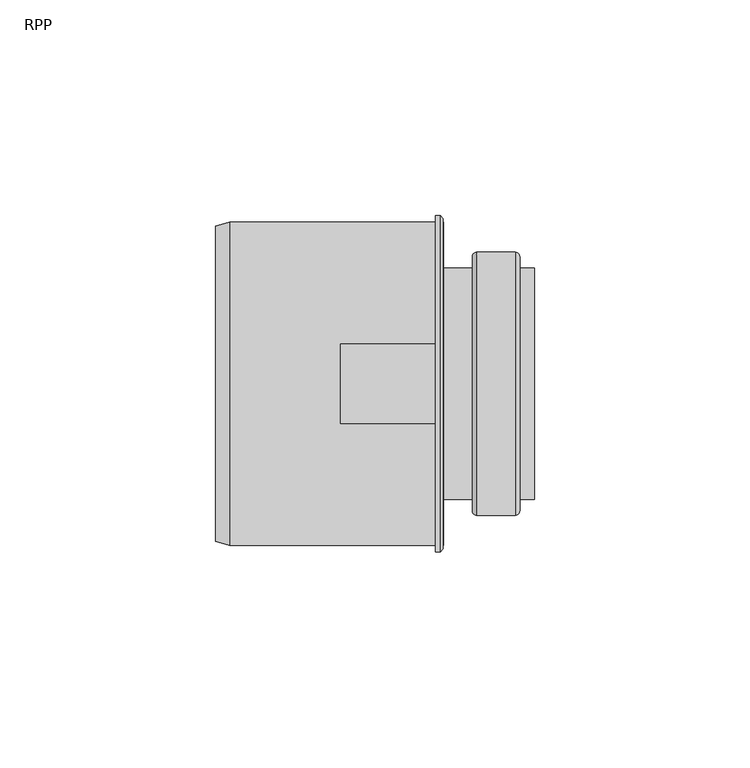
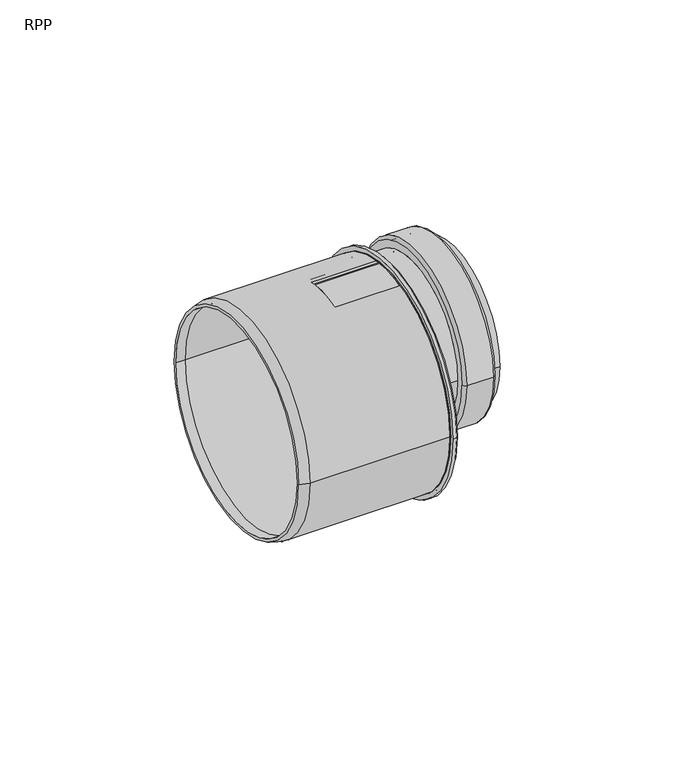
"""IFC4 building model written with IfcOpenShell, lengths in millimetres: pipe fitting geometry, RAUPIANO PLUS Short Reducer : RPP."""

from ifc_helpers import new_model, si_unit, point, frame, frame_2d, origin, origin_2d, place, context, project, spatial, polyline, circle_curve, ellipse_curve, trimmed, segment, composite_curve, outline, extrude, source, transform, mapped, element, save
from ifc_brep_helpers import plane_surface, cylinder_surface, revolved_surface, advanced_brep


def rpp_bd0caaf4(model_context):
    return source(origin(), model_context, "Body", "SolidModel", [
        extrude(outline(composite_curve([segment(trimmed(circle_curve(origin_2d(), 37.5), [point((-37.5, 0.0))], [point((37.5, 0.0))], False, "CARTESIAN"), True, "CONTINUOUS"), segment(trimmed(circle_curve(origin_2d(), 37.5), [point((37.5, 0.0))], [point((-37.5, 0.0))], False, "CARTESIAN"), True, "CONTINUOUS")], self_intersect=False), holes=[composite_curve([segment(trimmed(circle_curve(frame_2d((0.0, 10.6)), 25.0), [point((-25.0, 10.6))], [point((25.0, 10.6))], True, "CARTESIAN"), True, "CONTINUOUS"), segment(trimmed(circle_curve(frame_2d((0.0, 10.6)), 25.0), [point((25.0, 10.6))], [point((-25.0, 10.6))], True, "CARTESIAN"), True, "CONTINUOUS")], self_intersect=False)]), frame((0.0, 0.0, 0.0), z_axis=(1.0, 0.0, 0.0), x_axis=(0.0, 1.0, 0.0)), (0.0, 0.0, 1.0), 1.9),
        advanced_brep(
        [(0.0, 37.5, 0.0), (0.0, -37.5, 0.0), (1.8, -37.5, 0.0), (1.8, 37.5, 0.0), (1.8, 38.3680651, 0.0), (1.8, -38.3680651, 0.0), (0.0, -39.0429328, 0.0), (0.0, 39.0429328, 0.0), (1.2520203, -39.0429328, 0.0), (1.2520203, 39.0429328, 0.0)],
        [
            (0, 1, circle_curve(frame((0.0, 0.0, 0.0), z_axis=(-1.0, 0.0, 0.0), x_axis=(0.0, -1.0, 0.0)), 37.5)),
            (1, 2),
            (2, 3, circle_curve(frame((1.8, 0.0, 0.0), z_axis=(1.0, 0.0, 0.0), x_axis=(0.0, -1.0, 0.0)), 37.5)),
            (3, 0),
            (1, 0, circle_curve(frame((0.0, 0.0, 0.0), z_axis=(-1.0, 0.0, 0.0), x_axis=(0.0, 1.0, 0.0)), 37.5)),
            (3, 2, circle_curve(frame((1.8, 0.0, 0.0), z_axis=(1.0, 0.0, 0.0), x_axis=(0.0, 1.0, 0.0)), 37.5)),
            (4, 5, circle_curve(frame((1.8, 0.0, 0.0), z_axis=(1.0, 0.0, 0.0), x_axis=(0.0, 1.0, 0.0)), 38.3680651)),
            (5, 4, circle_curve(frame((1.8, 0.0, 0.0), z_axis=(1.0, 0.0, 0.0), x_axis=(0.0, -1.0, 0.0)), 38.3680651)),
            (6, 7, circle_curve(frame((0.0, 0.0, 0.0), z_axis=(-1.0, 0.0, 0.0), x_axis=(0.0, 1.0, 0.0)), 39.0429328)),
            (7, 6, circle_curve(frame((0.0, 0.0, 0.0), z_axis=(-1.0, 0.0, 0.0), x_axis=(0.0, -1.0, 0.0)), 39.0429328)),
            (5, 8),
            (8, 9, circle_curve(frame((1.2520203, 0.0, 0.0), z_axis=(1.0, 0.0, 0.0), x_axis=(0.0, -1.0, 0.0)), 39.0429328)),
            (9, 4),
            (8, 6),
            (7, 9),
            (9, 8, circle_curve(frame((1.2520203, 0.0, 0.0), z_axis=(1.0, 0.0, 0.0), x_axis=(0.0, 1.0, 0.0)), 39.0429328)),
        ],
        [
            revolved_surface(polyline([(1.8, -37.5, 0.0), (0.0, -37.5, 0.0)]), (0.0, 0.0, 0.0), (1.0, 0.0, 0.0)),
            revolved_surface(polyline([(1.8, 37.5, 0.0), (0.0, 37.5, 0.0)]), (0.0, 0.0, 0.0), (1.0, 0.0, 0.0)),
            plane_surface(frame((1.8, 0.0, 0.0), z_axis=(1.0, 0.0, 0.0), x_axis=(0.0, 1.0, 0.0))),
            plane_surface(frame((0.0, 0.0, 0.0), z_axis=(-1.0, 0.0, 0.0), x_axis=(0.0, 1.0, 0.0))),
            revolved_surface(polyline([(1.2520203, -39.0429328, 0.0), (1.8, -38.3680651, 0.0)]), (0.0, 0.0, 0.0), (1.0, 0.0, 0.0)),
            cylinder_surface(frame((0.0, 0.0, 0.0), z_axis=(1.0, 0.0, 0.0), x_axis=(0.0, -1.0, 0.0)), 39.0429328),
            revolved_surface(polyline([(1.2520203, 39.0429328, 0.0), (1.8, 38.3680651, 0.0)]), (0.0, 0.0, 0.0), (1.0, 0.0, 0.0)),
            cylinder_surface(frame((0.0, 0.0, 0.0), z_axis=(1.0, 0.0, 0.0), x_axis=(0.0, 1.0, 0.0)), 39.0429328),
        ],
        [
            (0, [[1, 2, 3, 4]]),
            (1, [[5, -4, 6, -2]]),
            (2, [[7, 8], [-6, -3]]),
            (3, [[9, 10], [-5, -1]]),
            (4, [[-8, 11, 12, 13]]),
            (5, [[-12, 14, -10, 15]]),
            (6, [[-7, -13, 16, -11]]),
            (7, [[-16, -15, -9, -14]]),
        ],
    ),
        advanced_brep(
        [(8.6, 26.8, 10.6), (8.6, -26.8, 10.6), (-22.0, -26.8, 10.6), (-22.0, 26.8, 10.6), (23.0, 26.8, 10.6), (23.0, -26.8, 10.6), (19.6, -26.8, 10.6), (19.6, 26.8, 10.6), (17.6, 25.0, 10.6), (17.6, -25.0, 10.6), (23.0, -25.0, 10.6), (23.0, 25.0, 10.6), (-20.2, 25.0, 10.6), (-20.2, -25.0, 10.6), (10.6, -25.0, 10.6), (10.6, 25.0, 10.6), (17.6, -28.5, 10.6), (17.6, 28.5, 10.6), (9.6, 30.5, 10.6), (9.6, -30.5, 10.6), (8.6, -29.5, 10.6), (8.6, 29.5, 10.6), (18.6, 30.5, 10.6), (18.6, -30.5, 10.6), (19.6, 29.5, 10.6), (19.6, -29.5, 10.6), (10.6, 28.5, 10.6), (10.6, -28.5, 10.6), (-22.0, 22.8, 10.6), (-22.0, -22.8, 10.6), (-20.2, -22.8, 10.6), (-20.2, 22.8, 10.6)],
        [
            (0, 1, circle_curve(frame((8.6, 0.0, 10.6), z_axis=(-1.0, 0.0, 0.0), x_axis=(0.0, -1.0, 0.0)), 26.8)),
            (1, 2),
            (2, 3, circle_curve(frame((-22.0, 0.0, 10.6), z_axis=(1.0, 0.0, 0.0), x_axis=(0.0, -1.0, 0.0)), 26.8)),
            (3, 0),
            (4, 5, circle_curve(frame((23.0, 0.0, 10.6), z_axis=(-1.0, 0.0, 0.0), x_axis=(0.0, -1.0, 0.0)), 26.8)),
            (5, 6),
            (6, 7, circle_curve(frame((19.6, 0.0, 10.6), z_axis=(1.0, 0.0, 0.0), x_axis=(0.0, -1.0, 0.0)), 26.8)),
            (7, 4),
            (8, 9, circle_curve(frame((17.6, 0.0, 10.6), z_axis=(-1.0, 0.0, 0.0), x_axis=(0.0, -1.0, 0.0)), 25.0)),
            (9, 10),
            (10, 11, circle_curve(frame((23.0, 0.0, 10.6), z_axis=(1.0, 0.0, 0.0), x_axis=(0.0, -1.0, 0.0)), 25.0)),
            (11, 8),
            (12, 13, circle_curve(frame((-20.2, 0.0, 10.6), z_axis=(-1.0, 0.0, 0.0), x_axis=(0.0, -1.0, 0.0)), 25.0)),
            (13, 14),
            (14, 15, circle_curve(frame((10.6, 0.0, 10.6), z_axis=(1.0, 0.0, 0.0), x_axis=(0.0, -1.0, 0.0)), 25.0)),
            (15, 12),
            (1, 0, circle_curve(frame((8.6, 0.0, 10.6), z_axis=(-1.0, 0.0, 0.0), x_axis=(0.0, 1.0, 0.0)), 26.8)),
            (3, 2, circle_curve(frame((-22.0, 0.0, 10.6), z_axis=(1.0, 0.0, 0.0), x_axis=(0.0, 1.0, 0.0)), 26.8)),
            (5, 4, circle_curve(frame((23.0, 0.0, 10.6), z_axis=(-1.0, 0.0, 0.0), x_axis=(0.0, 1.0, 0.0)), 26.8)),
            (7, 6, circle_curve(frame((19.6, 0.0, 10.6), z_axis=(1.0, 0.0, 0.0), x_axis=(0.0, 1.0, 0.0)), 26.8)),
            (10, 11, circle_curve(frame((23.0, 0.0, 10.6), z_axis=(-1.0, 0.0, 0.0), x_axis=(0.0, 1.0, 0.0)), 25.0)),
            (9, 8, circle_curve(frame((17.6, 0.0, 10.6), z_axis=(-1.0, 0.0, 0.0), x_axis=(0.0, 1.0, 0.0)), 25.0)),
            (13, 12, circle_curve(frame((-20.2, 0.0, 10.6), z_axis=(-1.0, 0.0, 0.0), x_axis=(0.0, 1.0, 0.0)), 25.0)),
            (15, 14, circle_curve(frame((10.6, 0.0, 10.6), z_axis=(1.0, 0.0, 0.0), x_axis=(0.0, 1.0, 0.0)), 25.0)),
            (16, 17, circle_curve(frame((17.6, 0.0, 10.6), z_axis=(-1.0, 0.0, 0.0), x_axis=(0.0, 1.0, 0.0)), 28.5)),
            (17, 16, circle_curve(frame((17.6, 0.0, 10.6), z_axis=(-1.0, 0.0, 0.0), x_axis=(0.0, -1.0, 0.0)), 28.5)),
            (18, 19, circle_curve(frame((9.6, 0.0, 10.6), z_axis=(-1.0, 0.0, 0.0), x_axis=(0.0, -1.0, 0.0)), 30.5)),
            (19, 20, circle_curve(frame((9.6, -29.5, 10.6), z_axis=(0.0, 0.0, -1.0), x_axis=(1.0, 0.0, 0.0)), 1.0)),
            (20, 21, circle_curve(frame((8.6, 0.0, 10.6), z_axis=(1.0, 0.0, 0.0), x_axis=(0.0, -1.0, 0.0)), 29.5)),
            (21, 18, circle_curve(frame((9.6, 29.5, 10.6), z_axis=(0.0, 0.0, -1.0), x_axis=(1.0, 0.0, 0.0)), 1.0)),
            (22, 23, circle_curve(frame((18.6, 0.0, 10.6), z_axis=(-1.0, 0.0, 0.0), x_axis=(0.0, -1.0, 0.0)), 30.5)),
            (23, 19),
            (18, 22),
            (24, 25, circle_curve(frame((19.6, 0.0, 10.6), z_axis=(-1.0, 0.0, 0.0), x_axis=(0.0, -1.0, 0.0)), 29.5)),
            (25, 23, circle_curve(frame((18.6, -29.5, 10.6), z_axis=(0.0, 0.0, -1.0), x_axis=(1.0, 0.0, 0.0)), 1.0)),
            (22, 24, circle_curve(frame((18.6, 29.5, 10.6), z_axis=(0.0, 0.0, -1.0), x_axis=(1.0, 0.0, 0.0)), 1.0)),
            (20, 21, circle_curve(frame((8.6, 0.0, 10.6), z_axis=(-1.0, 0.0, 0.0), x_axis=(0.0, 1.0, 0.0)), 29.5)),
            (19, 18, circle_curve(frame((9.6, 0.0, 10.6), z_axis=(-1.0, 0.0, 0.0), x_axis=(0.0, 1.0, 0.0)), 30.5)),
            (23, 22, circle_curve(frame((18.6, 0.0, 10.6), z_axis=(-1.0, 0.0, 0.0), x_axis=(0.0, 1.0, 0.0)), 30.5)),
            (25, 24, circle_curve(frame((19.6, 0.0, 10.6), z_axis=(-1.0, 0.0, 0.0), x_axis=(0.0, 1.0, 0.0)), 29.5)),
            (26, 27, circle_curve(frame((10.6, 0.0, 10.6), z_axis=(-1.0, 0.0, 0.0), x_axis=(0.0, -1.0, 0.0)), 28.5)),
            (27, 16),
            (17, 26),
            (28, 29, circle_curve(frame((-22.0, 0.0, 10.6), z_axis=(-1.0, 0.0, 0.0), x_axis=(0.0, -1.0, 0.0)), 22.8)),
            (29, 30),
            (30, 31, circle_curve(frame((-20.2, 0.0, 10.6), z_axis=(1.0, 0.0, 0.0), x_axis=(0.0, -1.0, 0.0)), 22.8)),
            (31, 28),
            (27, 26, circle_curve(frame((10.6, 0.0, 10.6), z_axis=(-1.0, 0.0, 0.0), x_axis=(0.0, 1.0, 0.0)), 28.5)),
            (30, 31, circle_curve(frame((-20.2, 0.0, 10.6), z_axis=(-1.0, 0.0, 0.0), x_axis=(0.0, 1.0, 0.0)), 22.8)),
            (29, 28, circle_curve(frame((-22.0, 0.0, 10.6), z_axis=(-1.0, 0.0, 0.0), x_axis=(0.0, 1.0, 0.0)), 22.8)),
        ],
        [
            cylinder_surface(frame((0.0, 0.0, 10.6), z_axis=(1.0, 0.0, 0.0), x_axis=(0.0, -1.0, 0.0)), 26.8),
            revolved_surface(polyline([(23.0, -25.0, 10.6), (17.6, -25.0, 10.6)]), (0.0, 0.0, 10.6), (1.0, 0.0, 0.0)),
            revolved_surface(polyline([(10.6, -25.0, 10.6), (-20.2, -25.0, 10.6)]), (0.0, 0.0, 10.6), (1.0, 0.0, 0.0)),
            cylinder_surface(frame((0.0, 0.0, 10.6), z_axis=(1.0, 0.0, 0.0), x_axis=(0.0, 1.0, 0.0)), 26.8),
            plane_surface(frame((23.0, 0.0, 10.6), z_axis=(1.0, 0.0, 0.0), x_axis=(0.0, 1.0, 0.0))),
            revolved_surface(polyline([(23.0, 25.0, 10.6), (17.6, 25.0, 10.6)]), (0.0, 0.0, 10.6), (1.0, 0.0, 0.0)),
            revolved_surface(polyline([(10.6, 25.0, 10.6), (-20.2, 25.0, 10.6)]), (0.0, 0.0, 10.6), (1.0, 0.0, 0.0)),
            plane_surface(frame((17.6, 0.0, 10.6), z_axis=(-1.0, 0.0, 0.0), x_axis=(0.0, 1.0, 0.0))),
            revolved_surface(trimmed(ellipse_curve(frame((9.6, -29.5, 10.6), z_axis=(0.0, 0.0, 1.0), x_axis=(1.0, 0.0, 0.0)), 1.0, 1.0), [point((8.6, -29.5, 10.6))], [point((9.6, -30.5, 10.6))], True, "CARTESIAN"), (0.0, 0.0, 10.6), (1.0, 0.0, 0.0)),
            cylinder_surface(frame((0.0, 0.0, 10.6), z_axis=(1.0, 0.0, 0.0), x_axis=(0.0, -1.0, 0.0)), 30.5),
            revolved_surface(trimmed(ellipse_curve(frame((18.6, -29.5, 10.6), z_axis=(0.0, 0.0, 1.0), x_axis=(1.0, 0.0, 0.0)), 1.0, 1.0), [point((18.6, -30.5, 10.6))], [point((19.6, -29.5, 10.6))], True, "CARTESIAN"), (0.0, 0.0, 10.6), (1.0, 0.0, 0.0)),
            plane_surface(frame((8.6, 0.0, 10.6), z_axis=(-1.0, 0.0, 0.0), x_axis=(0.0, 1.0, 0.0))),
            revolved_surface(trimmed(ellipse_curve(frame((9.6, 29.5, 10.6), z_axis=(0.0, 0.0, -1.0), x_axis=(1.0, 0.0, 0.0)), 1.0, 1.0), [point((8.6, 29.5, 10.6))], [point((9.6, 30.5, 10.6))], True, "CARTESIAN"), (0.0, 0.0, 10.6), (1.0, 0.0, 0.0)),
            cylinder_surface(frame((0.0, 0.0, 10.6), z_axis=(1.0, 0.0, 0.0), x_axis=(0.0, 1.0, 0.0)), 30.5),
            revolved_surface(trimmed(ellipse_curve(frame((18.6, 29.5, 10.6), z_axis=(0.0, 0.0, -1.0), x_axis=(1.0, 0.0, 0.0)), 1.0, 1.0), [point((18.6, 30.5, 10.6))], [point((19.6, 29.5, 10.6))], True, "CARTESIAN"), (0.0, 0.0, 10.6), (1.0, 0.0, 0.0)),
            plane_surface(frame((19.6, 0.0, 10.6), z_axis=(1.0, 0.0, 0.0), x_axis=(0.0, 1.0, 0.0))),
            revolved_surface(polyline([(17.6, -28.5, 10.6), (10.6, -28.5, 10.6)]), (0.0, 0.0, 10.6), (1.0, 0.0, 0.0)),
            revolved_surface(polyline([(-20.2, -22.8, 10.6), (-22.0, -22.8, 10.6)]), (0.0, 0.0, 10.6), (1.0, 0.0, 0.0)),
            revolved_surface(polyline([(17.6, 28.5, 10.6), (10.6, 28.5, 10.6)]), (0.0, 0.0, 10.6), (1.0, 0.0, 0.0)),
            plane_surface(frame((10.6, 0.0, 10.6), z_axis=(1.0, 0.0, 0.0), x_axis=(0.0, 1.0, 0.0))),
            plane_surface(frame((-20.2, 0.0, 10.6), z_axis=(1.0, 0.0, 0.0), x_axis=(0.0, 1.0, 0.0))),
            revolved_surface(polyline([(-20.2, 22.8, 10.6), (-22.0, 22.8, 10.6)]), (0.0, 0.0, 10.6), (1.0, 0.0, 0.0)),
            plane_surface(frame((-22.0, 0.0, 10.6), z_axis=(-1.0, 0.0, 0.0), x_axis=(0.0, 1.0, 0.0))),
        ],
        [
            (0, [[1, 2, 3, 4]]),
            (0, [[5, 6, 7, 8]]),
            (1, [[9, 10, 11, 12]]),
            (2, [[13, 14, 15, 16]]),
            (3, [[17, -4, 18, -2]]),
            (3, [[19, -8, 20, -6]]),
            (4, [[-19, -5], [21, -11]]),
            (5, [[22, -12, -21, -10]]),
            (6, [[23, -16, 24, -14]]),
            (7, [[25, 26], [-22, -9]]),
            (8, [[27, 28, 29, 30]]),
            (9, [[31, 32, -27, 33]]),
            (10, [[34, 35, -31, 36]]),
            (11, [[37, -29], [-17, -1]]),
            (12, [[38, -30, -37, -28]]),
            (13, [[39, -33, -38, -32]]),
            (14, [[40, -36, -39, -35]]),
            (15, [[-40, -34], [-20, -7]]),
            (16, [[41, 42, -26, 43]]),
            (17, [[44, 45, 46, 47]]),
            (18, [[48, -43, -25, -42]]),
            (19, [[-48, -41], [-24, -15]]),
            (20, [[-23, -13], [49, -46]]),
            (21, [[50, -47, -49, -45]]),
            (22, [[-18, -3], [-50, -44]]),
        ],
    ),
        advanced_brep(
        [(-47.7, 35.6, 0.0), (-47.7, -35.6, 0.0), (0.0, -35.6, 0.0), (0.0, 35.6, 0.0), (-51.0, 35.6, 0.0), (-51.0, -35.6, 0.0), (-47.7, 37.5, 0.0), (-47.7, -37.5, 0.0), (-51.0, -36.6157677, 0.0), (-51.0, 36.6157677, 0.0), (0.0, 37.5, 0.0), (0.0, -37.5, 0.0)],
        [
            (0, 1, circle_curve(frame((-47.7, 0.0, 0.0), z_axis=(-1.0, 0.0, 0.0), x_axis=(0.0, -1.0, 0.0)), 35.6)),
            (1, 2),
            (2, 3, circle_curve(frame((0.0, 0.0, 0.0), z_axis=(1.0, 0.0, 0.0), x_axis=(0.0, -1.0, 0.0)), 35.6)),
            (3, 0),
            (4, 5, circle_curve(frame((-51.0, 0.0, 0.0), z_axis=(-1.0, 0.0, 0.0), x_axis=(0.0, -1.0, 0.0)), 35.6)),
            (5, 1),
            (0, 4),
            (6, 7, circle_curve(frame((-47.7, 0.0, 0.0), z_axis=(-1.0, 0.0, 0.0), x_axis=(0.0, -1.0, 0.0)), 37.5)),
            (7, 8),
            (8, 9, circle_curve(frame((-51.0, 0.0, 0.0), z_axis=(1.0, 0.0, 0.0), x_axis=(0.0, -1.0, 0.0)), 36.6157677)),
            (9, 6),
            (10, 11, circle_curve(frame((0.0, 0.0, 0.0), z_axis=(-1.0, 0.0, 0.0), x_axis=(0.0, -1.0, 0.0)), 37.5)),
            (11, 7),
            (6, 10),
            (10, 11, circle_curve(frame((0.0, 0.0, 0.0), z_axis=(1.0, 0.0, 0.0), x_axis=(0.0, 1.0, 0.0)), 37.5)),
            (2, 3, circle_curve(frame((0.0, 0.0, 0.0), z_axis=(-1.0, 0.0, 0.0), x_axis=(0.0, 1.0, 0.0)), 35.6)),
            (1, 0, circle_curve(frame((-47.7, 0.0, 0.0), z_axis=(-1.0, 0.0, 0.0), x_axis=(0.0, 1.0, 0.0)), 35.6)),
            (5, 4, circle_curve(frame((-51.0, 0.0, 0.0), z_axis=(-1.0, 0.0, 0.0), x_axis=(0.0, 1.0, 0.0)), 35.6)),
            (8, 9, circle_curve(frame((-51.0, 0.0, 0.0), z_axis=(-1.0, 0.0, 0.0), x_axis=(0.0, 1.0, 0.0)), 36.6157677)),
            (7, 6, circle_curve(frame((-47.7, 0.0, 0.0), z_axis=(-1.0, 0.0, 0.0), x_axis=(0.0, 1.0, 0.0)), 37.5)),
        ],
        [
            revolved_surface(polyline([(0.0, -35.6, 0.0), (-47.7, -35.6, 0.0)]), (0.0, 0.0, 0.0), (1.0, 0.0, 0.0)),
            revolved_surface(polyline([(-47.7, -35.6, 0.0), (-51.0, -35.6, 0.0)]), (0.0, 0.0, 0.0), (1.0, 0.0, 0.0)),
            revolved_surface(polyline([(-51.0, -36.6157677, 0.0), (-47.7, -37.5, 0.0)]), (0.0, 0.0, 0.0), (1.0, 0.0, 0.0)),
            cylinder_surface(frame((0.0, 0.0, 0.0), z_axis=(1.0, 0.0, 0.0), x_axis=(0.0, -1.0, 0.0)), 37.5),
            plane_surface(frame((0.0, 0.0, 0.0), z_axis=(1.0, 0.0, 0.0), x_axis=(0.0, 1.0, 0.0))),
            revolved_surface(polyline([(0.0, 35.6, 0.0), (-47.7, 35.6, 0.0)]), (0.0, 0.0, 0.0), (1.0, 0.0, 0.0)),
            revolved_surface(polyline([(-47.7, 35.6, 0.0), (-51.0, 35.6, 0.0)]), (0.0, 0.0, 0.0), (1.0, 0.0, 0.0)),
            plane_surface(frame((-51.0, 0.0, 0.0), z_axis=(-1.0, 0.0, 0.0), x_axis=(0.0, 1.0, 0.0))),
            revolved_surface(polyline([(-51.0, 36.6157677, 0.0), (-47.7, 37.5, 0.0)]), (0.0, 0.0, 0.0), (1.0, 0.0, 0.0)),
            cylinder_surface(frame((0.0, 0.0, 0.0), z_axis=(1.0, 0.0, 0.0), x_axis=(0.0, 1.0, 0.0)), 37.5),
        ],
        [
            (0, [[1, 2, 3, 4]]),
            (1, [[5, 6, -1, 7]]),
            (2, [[8, 9, 10, 11]]),
            (3, [[12, 13, -8, 14]]),
            (4, [[15, -12], [16, -3]]),
            (5, [[17, -4, -16, -2]]),
            (6, [[18, -7, -17, -6]]),
            (7, [[19, -10], [-18, -5]]),
            (8, [[20, -11, -19, -9]]),
            (9, [[-15, -14, -20, -13]]),
        ],
    ),
    ])


if __name__ == "__main__":
    model = new_model("IFC4")
    model_context = context("Model", 3, world=origin())
    ifc_project = project(units=[si_unit("LENGTHUNIT", "METRE", prefix="MILLI")], contexts=[model_context])
    site = spatial("IfcSite", under=ifc_project)
    building = spatial("IfcBuilding", under=site)
    placement = place(None, origin())
    rpp_shape = rpp_bd0caaf4(model_context)
    element("IfcPipeFitting", 1, ObjectType="RAUPIANO PLUS Short Reducer : RPP", at=placement, inside=building, context=model_context, shape_type="MappedRepresentation", body=[
        mapped(rpp_shape, transform((0.0, 0.0, 0.0), x_axis=(1.0, 0.0, 0.0), y_axis=(0.0, 1.0, 0.0), z_axis=(0.0, 0.0, 1.0))),
    ])
    save(model, "model.ifc")
